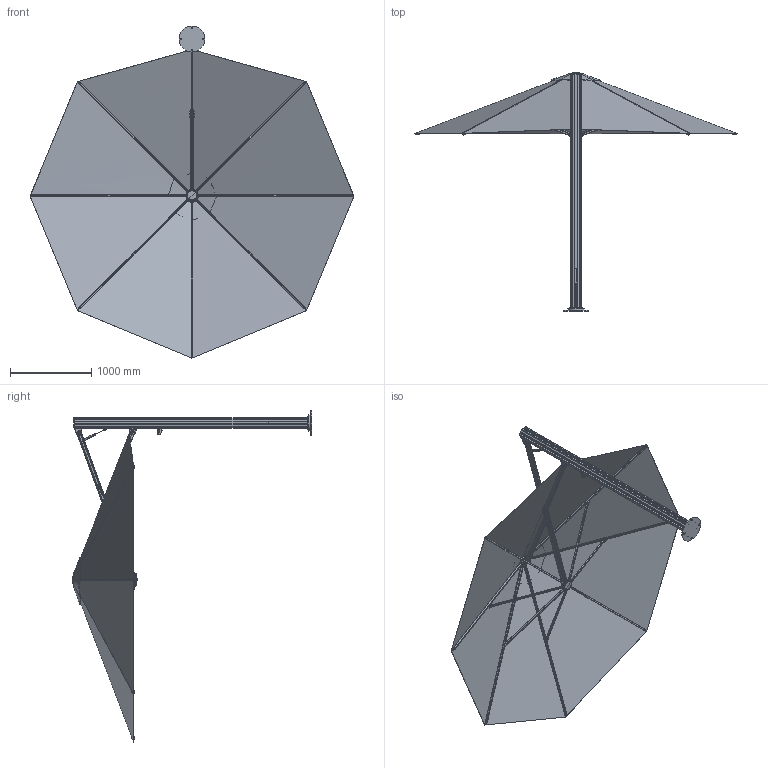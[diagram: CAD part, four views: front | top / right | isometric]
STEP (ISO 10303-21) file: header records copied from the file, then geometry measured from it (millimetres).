
FILE_DESCRIPTION (( 'STEP AP203' ), '1' );
FILE_NAME ('Unity 4M Octagonal Uno.STEP', '2020-06-18T23:52:50', ( '' ), ( '' ), 'SwSTEP 2.0', 'SolidWorks 2017', '' );
FILE_SCHEMA (( 'CONFIG_CONTROL_DESIGN' ));
Length unit declared in the file: millimetre
Products named in the file (47): SMP_UM - 110102_Stretched; SMP_UM - 110065; SMP_UM - 110093; SMP_UM - 110080; SMP_UM - 110084; SMP_UM - 110131; SMP_UM - 010261; SMP_UM - 110085; SMP_UM - 110313_Default<As Machined>; SMP_UM - 110168; SMP_UM - 110075; SMP_UM - 110070; SMP_UM - 110069; SMP_UM - 110061; SMP_UM - 210043 - Gastec Spring_Extended; SMP_UM - 110089; SMP_UM - 110059; socket button head cap screw_am_B18.3.4M - 5 x 0.8 x 16 SBHCS --N; SMP_UM - 010005_Canopy only; SMP_UM - 110087; socket button head cap screw_am_B18.3.4M - 5 x 0.8 x 20 SBHCS --N; SMP_UM - 110081; SMP_UM - 110098; SMP_UM - 110064; SMP_UM - 110088; SMP_UM - 110066; SMP_UM - 110083; SMP_UM - 210023; SMP_UM - 110079; SMP_UM - 110222; SMP_UM - 110123; SMP_UM - 110110; SMP_UM - 110116; SMP_UM - 110063; SMP_UM - 110092; SMP_UM - 110094; SMP_UM - 110126 (2); SMP_UM - 210036; SMP_UM - 210019; SMP_UM - 110083b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
Assembly tree (66 placements, depth 4):
  Unity 4M Octagonal Uno
    SMP_UM - 110116
      SMP_UM - 110112_ALL HOLES
    SMP_UM - 110123
      SMP_UM - 110313_Default<As Machined>
    SMP_UM - 110222
    SMP_UM - 110126 (2)
    SMP_UM - 110117
    SMP_UM - 110065  x2
      SMP_UM - 110070
      SMP_UM - 110069
    SMP_UM - 010005_Canopy only
      SMP_UM - 110059
        SMP_UM - 110081
        SMP_UM - 110080  x2
      SMP_UM - 110060
        SMP_UM - 110083
        SMP_UM - 110084
        SMP_UM - 210023
        socket button head cap screw_am_B18.3.4M - 5 x 0.8 x 16 SBHCS --N
        SMP_UM - 210036
        SMP_UM - 110085  x2
        SMP_UM - 110083b
      SMP_UM - 110064
        SMP_UM - 110092
      SMP_UM - 110063
        SMP_UM - 110092
        SMP_UM - 110093
        SMP_UM - 110094
        SMP_UM - 110110
      SMP_UM - 110061  x7
        SMP_UM - 110087
        SMP_UM - 110089
        SMP_UM - 210019
        SMP_UM - 110088
        SMP_UM - 110131
        socket button head cap screw_am_B18.3.4M - 5 x 0.8 x 20 SBHCS --N
        SMP_UM - 210036
      SMP_UM - 110062  x7
        SMP_UM - 110091
        SMP_UM - 110089
      SMP_UM - 110066
        SMP_UM - 110098
        SMP_UM - 110075
        SMP_UM - 110096_PD
        SMP_UM - 110102_Stretched
      SMP_UM - 210043 - Gastec Spring_Extended
      SMP_UM - 110168
        SMP_UM - 110075
        SMP_UM - 110079
      SMP_UM - 010261
Bounding box: 3994.32 x 2950.74 x 4095.92 mm (x, y, z)
Volume: 61269680.9 mm3; surface area: 30134022.1 mm2
Topology: 106 solids, 108 shells, 2079 faces, 5046 edges, 3187 vertices
Faces by surface type: plane 661, cylinder 655, cone 328, bspline 297, torus 116, sphere 22
Entity records: 69180 total; most frequent: CARTESIAN_POINT 39442, ORIENTED_EDGE 5384, DIRECTION 4653, EDGE_CURVE 2692, AXIS2_PLACEMENT_3D 1840, VERTEX_POINT 1678, EDGE_LOOP 1142, FACE_OUTER_BOUND 1100
